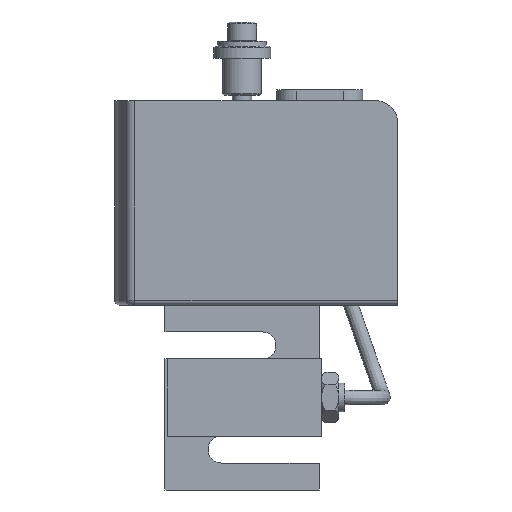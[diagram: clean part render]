
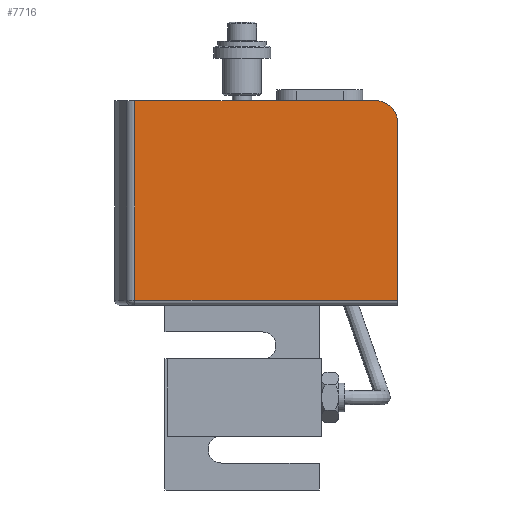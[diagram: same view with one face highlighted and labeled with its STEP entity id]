
A CAD part, front view. The second image highlights one B-rep face of the part: STEP entity #7716.
In plain terms, the highlighted planar face has unit normal (0, -1, 0).
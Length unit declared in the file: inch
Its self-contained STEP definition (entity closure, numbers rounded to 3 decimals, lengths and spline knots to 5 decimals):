
#694=PLANE('',#8354);
#1092=FACE_OUTER_BOUND('',#1557,.T.);
#1557=EDGE_LOOP('',(#6721,#6722,#6723,#6724,#6725));
#2027=LINE('',#22913,#2519);
#2035=LINE('',#22970,#2527);
#2036=LINE('',#22974,#2528);
#2037=LINE('',#22977,#2529);
#2519=VECTOR('',#9915,1.);
#2527=VECTOR('',#9961,1.);
#2528=VECTOR('',#9966,1.);
#2529=VECTOR('',#9969,1.);
#2839=CIRCLE('',#8355,0.275);
#3541=VERTEX_POINT('',#22910);
#3542=VERTEX_POINT('',#22912);
#3554=VERTEX_POINT('',#22969);
#3555=VERTEX_POINT('',#22973);
#3556=VERTEX_POINT('',#22975);
#4622=EDGE_CURVE('',#3541,#3542,#2027,.T.);
#4643=EDGE_CURVE('',#3554,#3542,#2035,.T.);
#4645=EDGE_CURVE('',#3555,#3541,#2036,.T.);
#4646=EDGE_CURVE('',#3556,#3555,#2839,.T.);
#4647=EDGE_CURVE('',#3554,#3556,#2037,.T.);
#6721=ORIENTED_EDGE('',*,*,#4645,.F.);
#6722=ORIENTED_EDGE('',*,*,#4646,.F.);
#6723=ORIENTED_EDGE('',*,*,#4647,.F.);
#6724=ORIENTED_EDGE('',*,*,#4643,.T.);
#6725=ORIENTED_EDGE('',*,*,#4622,.F.);
#7716=ADVANCED_FACE('',(#1092),#694,.T.);
#8354=AXIS2_PLACEMENT_3D('',#22972,#9964,#9965);
#8355=AXIS2_PLACEMENT_3D('',#22976,#9967,#9968);
#9915=DIRECTION('',(-1.,0.,0.));
#9961=DIRECTION('',(0.,0.,-1.));
#9964=DIRECTION('center_axis',(0.,-1.,0.));
#9965=DIRECTION('ref_axis',(1.,0.,0.));
#9966=DIRECTION('',(0.,0.,-1.));
#9967=DIRECTION('center_axis',(0.,1.,0.));
#9968=DIRECTION('ref_axis',(0.707,0.,0.707));
#9969=DIRECTION('',(1.,0.,0.));
#22910=CARTESIAN_POINT('',(4.24842,15.36038,8.59856));
#22912=CARTESIAN_POINT('',(0.84284,15.36038,8.59856));
#22913=CARTESIAN_POINT('',(2.14943,15.36038,8.59856));
#22969=CARTESIAN_POINT('',(0.84284,15.36038,11.18606));
#22970=CARTESIAN_POINT('',(0.84284,15.36038,10.29606));
#22972=CARTESIAN_POINT('Origin',(0.66544,15.36038,8.53606));
#22973=CARTESIAN_POINT('',(4.24842,15.36038,10.91106));
#22974=CARTESIAN_POINT('',(4.24842,15.36038,9.19856));
#22975=CARTESIAN_POINT('',(3.97342,15.36038,11.18606));
#22976=CARTESIAN_POINT('Origin',(3.97342,15.36038,10.91106));
#22977=CARTESIAN_POINT('',(3.725,15.36038,11.18606));
